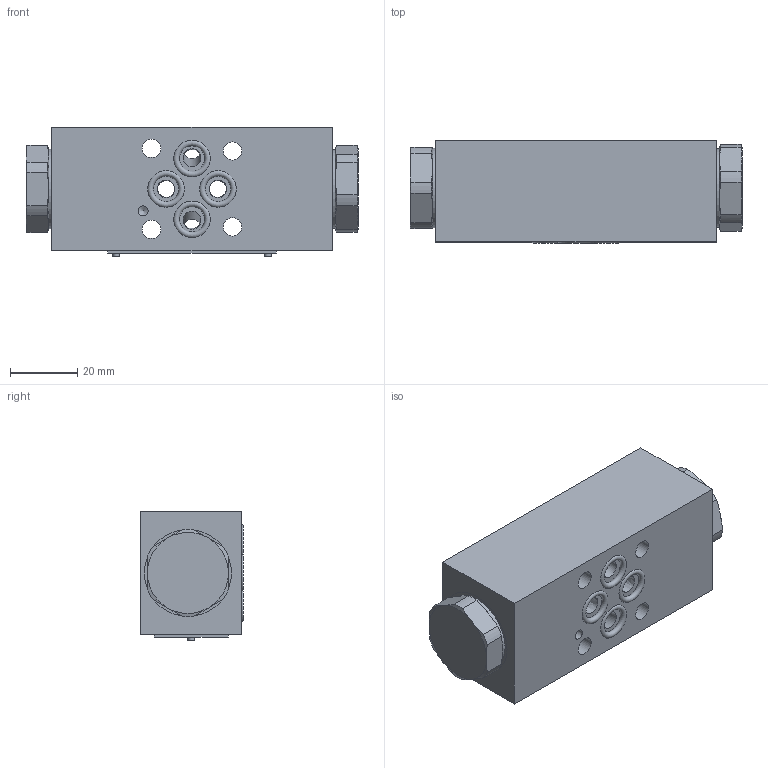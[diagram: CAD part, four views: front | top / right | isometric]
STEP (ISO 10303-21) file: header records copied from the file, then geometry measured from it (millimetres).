
FILE_DESCRIPTION(/* description */ (''),/* implementation_level */ '2;1');
FILE_NAME(/* name */ 'Z2S4-6XJ叠加式液控单向阀.prt.stp',/* time_stamp */ '2022-03-30T19:27:25+08:00',/* author */ (''),/* organization */ (''),/* preprocessor_version */ 'ST-DEVELOPER v16.7',/* originating_system */ 'SIEMENS PLM Software NX 12.0',/* authorisation */ '');
FILE_SCHEMA (('AUTOMOTIVE_DESIGN { 1 0 10303 214 3 1 1 1 }'));
Length unit declared in the file: millimetre
Products named in the file (1): Z2S4-6XJ叠加式液控单向阀
Bounding box: 98.4 x 30.4 x 38.3 mm (x, y, z)
Volume: 92097.7 mm3; surface area: 27934.5 mm2
Topology: 14 solids, 14 shells, 170 faces, 390 edges, 252 vertices
Faces by surface type: cylinder 72, plane 58, cone 28, bspline 6, torus 4, extrusion 2
Full cylindrical faces by diameter (mm): 1.8 x6, 2 x2, 3 x1, 3.3 x1, 5.3 x4, 5.4 x4, 10.8 x4, 14.5 x14, 16 x2, 17.1 x2, 20.5 x4, 23.5 x2, 25.8 x2
Entity records: 8333 total; most frequent: CARTESIAN_POINT 5047, DIRECTION 640, ORIENTED_EDGE 552, AXIS2_PLACEMENT_3D 287, EDGE_CURVE 276, EDGE_LOOP 236, VERTEX_POINT 212, FACE_BOUND 161
